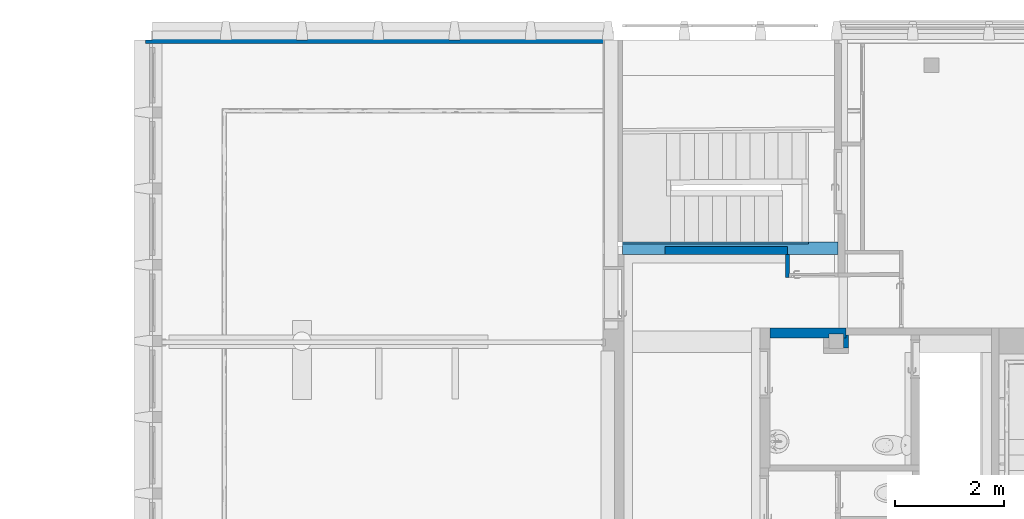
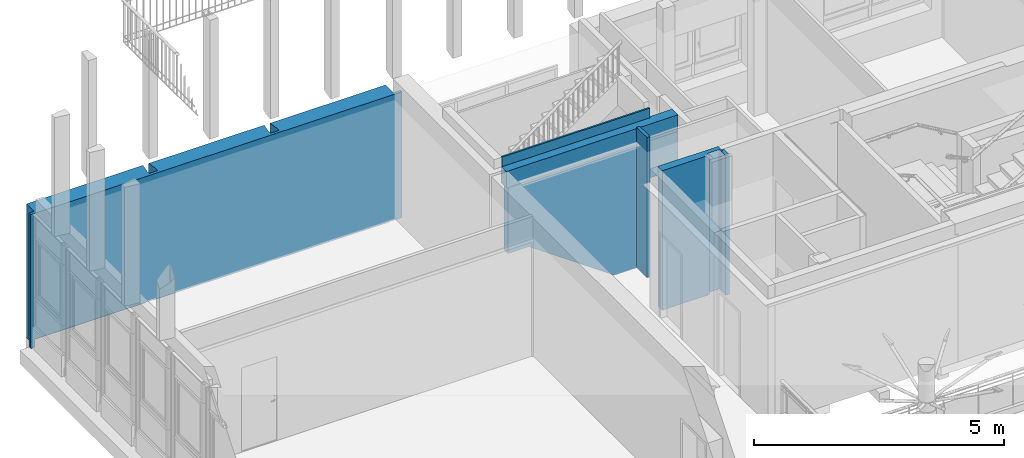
# One storey, part 39 of 65: 6 walls, 3 openings.
"""IFC4 building model written with IfcOpenShell, lengths in metres."""

from ifc_helpers import new_model, entity, si_unit, converted_unit, derived_unit, direction, frame, origin, place, context, subcontext, project, spatial, indexed_curve, outline, extrude, polygons, material, layer, layer_set, type_object, element, save


model = new_model("IFC4")

# Units and contexts
model_context = context("Model", 3, precision=1e-05, world=origin(), true_north=direction((6.12303176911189e-17, 1.0)))
body_context = subcontext(model_context, "Body", "Model", "MODEL_VIEW")
ifc_project = project(units=[si_unit("LENGTHUNIT", "METRE"), si_unit("AREAUNIT", "SQUARE_METRE"), si_unit("VOLUMEUNIT", "CUBIC_METRE"), converted_unit("PLANEANGLEUNIT", "DEGREE", entity("IfcRatioMeasure", 0.0174532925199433), si_unit("PLANEANGLEUNIT", "RADIAN"), dimensions=[0, 0, 0, 0, 0, 0, 0]), si_unit("MASSUNIT", "GRAM", prefix="KILO"), derived_unit("MASSDENSITYUNIT", [(si_unit("MASSUNIT", "GRAM", prefix="KILO"), 1), (si_unit("LENGTHUNIT", "METRE"), -3)]), derived_unit("MOMENTOFINERTIAUNIT", [(si_unit("LENGTHUNIT", "METRE"), 4)]), si_unit("TIMEUNIT", "SECOND"), si_unit("FREQUENCYUNIT", "HERTZ"), si_unit("THERMODYNAMICTEMPERATUREUNIT", "DEGREE_CELSIUS"), derived_unit("THERMALTRANSMITTANCEUNIT", [(si_unit("MASSUNIT", "GRAM", prefix="KILO"), 1), (si_unit("THERMODYNAMICTEMPERATUREUNIT", "KELVIN"), -1), (si_unit("TIMEUNIT", "SECOND"), -3)]), derived_unit("VOLUMETRICFLOWRATEUNIT", [(si_unit("LENGTHUNIT", "METRE"), 3), (si_unit("TIMEUNIT", "SECOND"), -1)]), si_unit("ELECTRICCURRENTUNIT", "AMPERE"), si_unit("ELECTRICVOLTAGEUNIT", "VOLT"), si_unit("POWERUNIT", "WATT"), si_unit("FORCEUNIT", "NEWTON", prefix="KILO"), si_unit("ILLUMINANCEUNIT", "LUX"), si_unit("LUMINOUSFLUXUNIT", "LUMEN"), si_unit("LUMINOUSINTENSITYUNIT", "CANDELA"), derived_unit("USERDEFINED", [(si_unit("MASSUNIT", "GRAM", prefix="KILO"), -1), (si_unit("LENGTHUNIT", "METRE"), -2), (si_unit("TIMEUNIT", "SECOND"), 3), (si_unit("LUMINOUSFLUXUNIT", "LUMEN"), 1)]), derived_unit("LINEARVELOCITYUNIT", [(si_unit("LENGTHUNIT", "METRE"), 1), (si_unit("TIMEUNIT", "SECOND"), -1)]), si_unit("PRESSUREUNIT", "PASCAL"), derived_unit("USERDEFINED", [(si_unit("LENGTHUNIT", "METRE"), -2), (si_unit("MASSUNIT", "GRAM", prefix="KILO"), 1), (si_unit("TIMEUNIT", "SECOND"), -2)]), derived_unit("LINEARFORCEUNIT", [(si_unit("MASSUNIT", "GRAM", prefix="KILO"), 1), (si_unit("LENGTHUNIT", "METRE"), 1), (si_unit("TIMEUNIT", "SECOND"), -2), (si_unit("LENGTHUNIT", "METRE"), -1)]), derived_unit("PLANARFORCEUNIT", [(si_unit("MASSUNIT", "GRAM", prefix="KILO"), 1), (si_unit("LENGTHUNIT", "METRE"), 1), (si_unit("TIMEUNIT", "SECOND"), -2), (si_unit("LENGTHUNIT", "METRE"), -2)])], contexts=[model_context])

# Site, building, storey
site_placement = place(None, origin())
site = spatial("IfcSite", under=ifc_project, at=site_placement, Name="Default", CompositionType="ELEMENT")
building_placement = place(site_placement, origin())
building = spatial("IfcBuilding", under=site, at=building_placement, Name="HOTEL CONSULAIRE BOULOGNE SUR MER", CompositionType="ELEMENT")
storey_placement = place(building_placement, origin())
storey = spatial("IfcBuildingStorey", under=building, at=storey_placement, Name="Niveau 0", CompositionType="ELEMENT", Elevation=1.31981936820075e-13)

# Wall, opening
ifc_material = material(Name="Mur par défaut", Category="Divers")
ifc_layer_1 = layer(ifc_material, 0.07, Name="Mur par défaut", Category="Divers")
ifc_layer_set_1 = layer_set([ifc_layer_1], Name="Mur de base:Générique - Int. 70 mm")
wall_type_1 = type_object("IfcWallType", Name="Mur de base:Générique - Int. 70 mm", PredefinedType="NOTDEFINED", material=ifc_layer_set_1)
wall_1_placement = place(storey_placement, frame((-2.1230062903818, -14.4441924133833, 0.0), z_axis=(0.0, 0.0, 1.0), x_axis=(0.0, 1.0, 0.0)))
wall_1 = element("IfcWall", 1, at=wall_1_placement, inside=storey, type_object=wall_type_1, material=ifc_layer_set_1, Name="Mur de base:Générique - Int. 70 mm", ObjectType="Mur de base:Générique - Int. 70 mm", PredefinedType="NOTDEFINED", context=body_context, shape_type="Tessellation", body=[
    polygons([(0.420488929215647, -0.0350000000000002, 3.42152697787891), (0.0707060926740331, -0.0350000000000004, 3.42152697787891), (0.000702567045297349, -0.0350000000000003, 3.42152697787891), (0.000702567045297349, -0.0350000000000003, 2.075), (0.0707060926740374, -0.0350000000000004, 2.075), (0.0707060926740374, -0.0350000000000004, 1.51470269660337e-13), (0.420488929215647, -0.0350000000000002, 1.51470269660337e-13), (0.420488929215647, -0.0350000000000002, 2.07500000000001), (0.0, 0.0349999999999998, 3.42152697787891), (0.420488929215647, 0.0349999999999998, 3.42152697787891), (0.420488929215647, 0.0349999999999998, 1.51470269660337e-13), (0.0, 0.0349999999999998, 1.51470269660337e-13), (0.000595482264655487, -0.0243306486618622, 0.0), (0.000595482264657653, -0.0243306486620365, 2.075), (0.0705919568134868, -0.0236281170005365, 2.075), (0.0705919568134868, -0.0236281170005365, 1.51469792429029e-13)], [[[2, 3, 4, 5, 6, 7, 8, 1]], [[10, 11, 12, 9]], [[2, 1, 10, 9, 3]], [[9, 12, 13, 14, 4, 3]], [[16, 6, 5, 15]], [[15, 5, 4, 14]], [[7, 6, 16, 13, 12, 11]], [[15, 14, 13, 16]], [[11, 10, 1, 8, 7]]], closed=True),
])
opening_1_placement = place(wall_1_placement, frame((0.000595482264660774, -0.0236281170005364, 0.0)))
element("IfcOpeningElement", 2, at=opening_1_placement, cuts=wall_1, Name="Mur de base:Générique - Int. 70 mm", ObjectType="Opening", PredefinedType="OPENING", context=body_context, shape_type="SweptSolid", body=[
    extrude(outline(indexed_curve([(-0.035, -1.0375), (0.035, -1.0375), (0.035, 1.0375), (-0.035, 1.0375), (-0.035, -1.0375)], self_intersect=False)), frame((0.04403078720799, -0.900305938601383, 1.0375), z_axis=(-0.0100361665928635, 0.999949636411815, 0.0), x_axis=(0.999949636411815, 0.0100361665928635, 0.0)), (0.0, 0.0, 1.0), 0.9),
])

# Walls
ifc_layer_2 = layer(ifc_material, 0.18, Name="Mur par défaut", Category="Divers")
ifc_layer_set_2 = layer_set([ifc_layer_2], Name="Mur de base:Générique - Int.180")
wall_type_2 = type_object("IfcWallType", Name="Mur de base:Générique - Int.180", PredefinedType="NOTDEFINED", material=ifc_layer_set_2)
wall_2_placement = place(storey_placement, frame((-2.44945658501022, -15.4652420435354, -0.0200000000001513)))
element("IfcWall", 3, at=wall_2_placement, inside=storey, type_object=wall_type_2, material=ifc_layer_set_2, Name="Mur de base:Générique - Int.180", ObjectType="Mur de base:Générique - Int.180", PredefinedType="NOTDEFINED", context=body_context, shape_type="Tessellation", body=[
    polygons([(1.35563335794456, -0.0900000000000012, -2.15727435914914e-16), (1.39685039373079, -0.0900000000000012, -2.15727435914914e-16), (1.39685039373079, -0.0900000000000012, 3.40652697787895), (1.35563335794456, -0.0900000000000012, 3.40652697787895), (2.23338674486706e-16, -0.0900000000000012, -2.15727435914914e-16), (0.984248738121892, -0.0900000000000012, -2.15727435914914e-16), (1.08424873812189, -0.0900000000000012, -2.15727435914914e-16), (1.08563335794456, -0.0900000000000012, -2.15727435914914e-16), (1.08563335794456, -0.0900000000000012, 3.40652697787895), (2.23338674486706e-16, -0.0900000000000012, 3.40652697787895), (1.39685039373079, 0.089999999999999, -2.15727435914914e-16), (1.23128658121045e-16, 0.089999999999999, -2.15727435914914e-16), (1.23128658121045e-16, 0.089999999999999, 3.40652697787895), (1.39685039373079, 0.089999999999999, 3.40652697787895), (1.39685039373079, -0.0400000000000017, -2.15727435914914e-16), (1.35563335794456, -0.0156677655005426, -2.15727435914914e-16), (1.08563335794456, -0.0156677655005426, -2.15727435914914e-16), (1.39685039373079, -0.0400000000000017, 3.40652697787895), (1.35563335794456, -0.0156677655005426, 3.40652697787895), (1.08563335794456, -0.0156677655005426, 3.40652697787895)], [[[4, 1, 2, 3]], [[10, 5, 6, 7, 8, 9]], [[16, 19, 20, 17]], [[14, 11, 12, 13]], [[2, 1, 16, 17, 8, 7, 6, 5, 12, 11, 15]], [[18, 3, 2, 15, 11, 14]], [[17, 20, 9, 8]], [[12, 5, 10, 13]], [[1, 4, 19, 16]], [[20, 19, 4, 3, 18, 14, 13, 10, 9]]], closed=True),
])
ifc_layer_3 = layer(ifc_material, 0.1, Name="Mur par défaut", Category="Divers")
ifc_layer_set_3 = layer_set([ifc_layer_3], Name="Mur de base:Générique - Int. 100 mm")
wall_type_3 = type_object("IfcWallType", Name="Mur de base:Générique - Int. 100 mm", PredefinedType="NOTDEFINED", material=ifc_layer_set_3)
wall_3_placement = place(storey_placement, frame((-1.05260619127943, -15.5052420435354, -0.0200000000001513), z_axis=(0.0, 0.0, 1.0), x_axis=(0.0, -1.0, 0.0)))
element("IfcWall", 4, at=wall_3_placement, inside=storey, type_object=wall_type_3, material=ifc_layer_set_3, Name="Mur de base:Générique - Int. 100 mm", ObjectType="Mur de base:Générique - Int. 100 mm", PredefinedType="NOTDEFINED", context=body_context, shape_type="Tessellation", body=[
    polygons([(0.23474076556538, 0.05, -2.15727435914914e-16), (0.0, 0.0500000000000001, -2.15727435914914e-16), (0.0, 0.0500000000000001, 3.40652697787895), (0.23474076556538, 0.05, 3.40652697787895), (0.23474076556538, -0.0412170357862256, -2.15727435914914e-16), (0.0499999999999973, -0.0412170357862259, -2.15727435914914e-16), (0.0499999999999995, -1.50455998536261e-16, -2.15727435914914e-16), (-2.16573425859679e-15, -8.64037255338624e-17, -2.15727435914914e-16), (0.0499999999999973, -0.0412170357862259, 3.40652697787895), (0.0499999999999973, -1.50455998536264e-16, 3.40652697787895), (0.0, -2.21762116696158e-16, 3.40652697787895), (0.23474076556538, -0.0412170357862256, 3.40652697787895)], [[[4, 1, 2, 3]], [[7, 8, 2, 1, 5, 6]], [[10, 7, 6, 9]], [[3, 2, 8, 11]], [[11, 8, 7, 10]], [[5, 12, 9, 6]], [[12, 5, 1, 4]], [[3, 11, 10, 9, 12, 4]]], closed=True),
])

# Wall, openings
ifc_layer_4 = layer(ifc_material, 0.15, Name="Mur par défaut", Category="Divers")
ifc_layer_set_4 = layer_set([ifc_layer_4], Name="Mur de base:Générique - Int. 150 mm")
wall_type_4 = type_object("IfcWallType", Name="Mur de base:Générique - Int. 150 mm", PredefinedType="NOTDEFINED", material=ifc_layer_set_4)
wall_4_placement = place(storey_placement, frame((-5.1297731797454, -13.9487034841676, -0.0200000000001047)))
wall_4 = element("IfcWall", 5, at=wall_4_placement, inside=storey, type_object=wall_type_4, material=ifc_layer_set_4, Name="Mur de base:Générique - Int. 150 mm", ObjectType="Mur de base:Générique - Int. 150 mm", PredefinedType="NOTDEFINED", context=body_context, shape_type="Tessellation", body=[
    polygons([(3.93134967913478, -0.0750000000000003, 3.0040999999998), (2.30846392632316e-16, -0.0750000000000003, 3.0040999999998), (2.30846392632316e-16, -0.0750000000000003, 1.38968714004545), (0.488882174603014, -0.0750000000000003, 1.38968714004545), (2.46508967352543, -0.0749999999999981, 0.0), (2.9717668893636, -0.0750000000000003, 0.0), (3.0417668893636, -0.0750000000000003, 0.0), (3.0417668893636, -0.0750000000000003, 2.09499999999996), (3.93134967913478, -0.0750000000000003, 2.09499999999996), (3.93134967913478, 0.0750000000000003, 3.0040999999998), (3.93134967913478, 0.0750000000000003, 2.09499999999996), (3.0417668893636, 0.0750000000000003, 2.09499999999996), (3.0417668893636, 0.0750000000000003, 0.0), (2.46508967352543, 0.0750000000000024, 0.0), (0.488882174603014, 0.0750000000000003, 1.38968714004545), (8.94273003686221e-16, 0.0750000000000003, 1.38968714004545), (8.94273003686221e-16, 0.0750000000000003, 3.0040999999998), (3.93134967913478, -0.0722106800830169, 3.0040999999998)], [[[9, 1, 2, 3, 4, 5, 6, 7, 8]], [[17, 10, 11, 12, 13, 14, 15, 16]], [[2, 1, 18, 10, 17]], [[6, 5, 14, 13, 7]], [[9, 8, 12, 11]], [[4, 3, 16, 15]], [[8, 7, 13, 12]], [[18, 1, 9, 11, 10]], [[17, 16, 3, 2]], [[5, 4, 15, 14]]], closed=True),
])
opening_2_placement = place(wall_4_placement, origin())
element("IfcOpeningElement", 6, at=opening_2_placement, cuts=wall_4, Name="Mur de base:Générique - Int. 150 mm", ObjectType="Opening", PredefinedType="OPENING", context=body_context, shape_type="SweptSolid", body=[
    extrude(outline(indexed_curve([(-0.694843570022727, -0.833492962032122), (0.694843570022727, -0.833492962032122), (0.694843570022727, 1.82159671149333), (-0.694843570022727, -0.154610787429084), (-0.694843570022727, -0.833492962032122)], self_intersect=False)), frame((0.643492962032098, 0.0749999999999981, 0.694843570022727), z_axis=(0.0, -1.0, 0.0), x_axis=(0.0, 0.0, -1.0)), (0.0, 0.0, 1.0), 0.15),
])
opening_3_placement = place(wall_4_placement, origin())
element("IfcOpeningElement", 7, at=opening_3_placement, cuts=wall_4, Name="Mur de base:Générique - Int. 150 mm", ObjectType="Opening", PredefinedType="OPENING", context=body_context, shape_type="SweptSolid", body=[
    extrude(outline(indexed_curve([(-0.464291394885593, -1.04749999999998), (0.464291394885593, -1.04749999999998), (0.464291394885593, 1.04749999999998), (-0.464291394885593, 1.04749999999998), (-0.464291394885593, -1.04749999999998)], self_intersect=False)), frame((3.47105828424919, 0.0750000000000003, 1.04749999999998), z_axis=(0.0, -1.0, 0.0), x_axis=(1.0, 0.0, 0.0)), (0.0, 0.0, 1.0), 0.15),
])

# Walls
ifc_layer_5 = layer(ifc_material, 0.37, Name="Mur par défaut", Category="Divers")
ifc_layer_set_5 = layer_set([ifc_layer_5], Name="Mur de base:Générique - Ext.370")
wall_type_5 = type_object("IfcWallType", Name="Mur de base:Générique - Ext.370", PredefinedType="NOTDEFINED", material=ifc_layer_set_5)
wall_5_placement = place(storey_placement, frame((-13.9143496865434, -9.96532416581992, -0.220000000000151)))
element("IfcWall", 8, at=wall_5_placement, inside=storey, type_object=wall_type_5, material=ifc_layer_set_5, Name="Mur de base:Générique - Ext.370", ObjectType="Mur de base:Générique - Ext.370", PredefinedType="NOTDEFINED", context=body_context, shape_type="Tessellation", body=[
    polygons([(0.120369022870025, 0.184999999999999, 0.0), (0.120369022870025, 0.184999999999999, 3.27110477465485), (2.8065813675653, 0.184999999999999, 3.27110477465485), (2.8065813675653, 0.184999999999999, -2.03037586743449e-16), (5.75942428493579, 0.0506918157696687, 0.200000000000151), (5.75942428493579, 0.0506918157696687, -2.03037586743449e-16), (8.41036902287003, 0.0506918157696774, -2.03037586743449e-16), (8.41036902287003, 0.0506918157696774, 0.200000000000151), (0.120369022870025, 0.0506918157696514, -2.03037586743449e-16), (2.78643513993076, 0.05069181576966, -2.03037586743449e-16), (2.95942428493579, 0.05069181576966, -2.03037586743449e-16), (2.93927805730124, 0.184999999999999, -2.03037586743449e-16), (5.6065813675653, 0.184999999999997, -2.03037586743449e-16), (5.58643513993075, 0.0506918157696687, -2.03037586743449e-16), (5.58643513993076, 0.0506918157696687, 0.200000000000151), (2.95942428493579, 0.05069181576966, 0.200000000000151), (2.93927805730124, 0.184999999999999, 3.27110477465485), (5.6065813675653, 0.184999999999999, 3.27110477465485), (5.73927805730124, 0.184999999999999, -2.03037586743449e-16), (8.41036902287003, 0.184999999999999, -2.03037586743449e-16), (8.57957650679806, -0.185000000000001, 3.27110477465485), (0.110369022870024, -0.185000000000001, 3.27110477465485), (0.0352498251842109, -0.185000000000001, 3.27110477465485), (1.21157521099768e-15, -0.185000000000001, 3.27110477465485), (1.21157521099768e-15, -0.185000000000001, -2.03037586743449e-16), (0.0352498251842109, -0.185000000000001, -2.03037586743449e-16), (0.0992498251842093, -0.185000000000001, -2.03037586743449e-16), (0.0992498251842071, -0.185000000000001, 0.200000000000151), (0.185000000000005, -0.185000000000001, 0.200000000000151), (8.57957650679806, -0.185000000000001, 0.200000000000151), (5.73927805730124, 0.184999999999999, 3.27110477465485), (8.41036902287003, 0.184999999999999, 3.27110477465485), (8.41036902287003, 0.184999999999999, 2.52400000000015), (8.41036902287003, 0.184999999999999, 2.42400000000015), (9.51438803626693e-16, -0.119308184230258, -2.03037586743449e-16), (0.099249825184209, -0.119308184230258, -2.03037586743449e-16), (8.57957650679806, -0.119308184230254, 0.200000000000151), (8.57957650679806, -0.119308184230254, 3.27110477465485), (8.41036902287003, -0.119308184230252, 3.27110477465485), (5.77292971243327, -0.0393443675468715, 3.27110477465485), (5.77292971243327, -0.120344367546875, 3.27110477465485), (5.57292971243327, -0.120344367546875, 3.27110477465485), (5.57292971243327, -0.039344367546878, 3.27110477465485), (2.97292971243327, -0.0393443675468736, 3.27110477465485), (2.97292971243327, -0.120344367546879, 3.27110477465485), (2.77292971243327, -0.120344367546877, 3.27110477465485), (2.77292971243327, -0.0393443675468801, 3.27110477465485), (0.120369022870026, -0.119308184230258, 3.27110477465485), (9.51438803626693e-16, -0.119308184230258, 3.27110477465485), (0.120369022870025, 0.0506918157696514, 0.200000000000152), (0.120369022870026, -0.119308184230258, 0.200000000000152), (0.099249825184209, -0.119308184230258, 0.200000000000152), (2.77292971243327, -0.0393443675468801, 0.200000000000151), (2.78643513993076, 0.0506918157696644, 0.200000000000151), (2.77292971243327, -0.120344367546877, 0.200000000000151), (2.97292971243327, -0.120344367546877, 0.200000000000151), (2.97292971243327, -0.0393443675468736, 0.200000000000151), (5.57292971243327, -0.039344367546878, 0.200000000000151), (5.57292971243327, -0.120344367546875, 0.200000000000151), (5.77292971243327, -0.120344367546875, 0.200000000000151), (5.77292971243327, -0.0393443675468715, 0.200000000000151), (8.41036902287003, -0.119308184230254, 0.200000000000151)], [[[3, 4, 1, 2]], [[18, 13, 12, 17]], [[32, 33, 34, 20, 19, 31]], [[52, 36, 35, 49, 48, 51]], [[55, 46, 45, 56]], [[59, 42, 41, 60]], [[37, 62, 39, 38]], [[5, 6, 7, 8]], [[16, 11, 14, 15]], [[28, 29, 30, 21, 22, 23, 24, 25, 26, 27]], [[50, 9, 10, 54]], [[10, 9, 1, 4]], [[14, 11, 12, 13]], [[7, 6, 19, 20]], [[26, 25, 35, 36, 27]], [[62, 37, 30, 29, 28, 52, 51, 50, 54, 53, 55, 56, 57, 16, 15, 58, 59, 60, 61, 5, 8]], [[21, 30, 37, 38]], [[55, 53, 47, 46]], [[59, 58, 43, 42]], [[28, 27, 36, 52]], [[39, 62, 8, 7, 20, 34, 33, 32]], [[21, 38, 39, 32, 31, 40, 41, 42, 43, 18, 17, 44, 45, 46, 47, 3, 2, 48, 49, 24, 23, 22]], [[25, 24, 49, 35]], [[50, 51, 48, 2, 1, 9]], [[56, 45, 44, 57]], [[60, 41, 40, 61]], [[54, 10, 4, 3, 47, 53]], [[15, 14, 13, 18, 43, 58]], [[16, 57, 44, 17, 12, 11]], [[5, 61, 40, 31, 19, 6]]], closed=True),
])
ifc_layer_6 = layer(ifc_material, 0.23, Name="Mur par défaut", Category="Divers")
ifc_layer_set_6 = layer_set([ifc_layer_6], Name="Mur de base:Générique - Int.230")
wall_type_6 = type_object("IfcWallType", Name="Mur de base:Générique - Int.230", PredefinedType="NOTDEFINED", material=ifc_layer_set_6)
wall_6_placement = place(storey_placement, frame((-5.1597731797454, -13.9059141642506, 2.9840999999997)))
element("IfcWall", 9, at=wall_6_placement, inside=storey, type_object=wall_type_6, material=ifc_layer_set_6, Name="Mur de base:Générique - Int.230", ObjectType="Mur de base:Générique - Int.230", PredefinedType="NOTDEFINED", context=body_context, shape_type="Tessellation", body=[
    polygons([(2.23046700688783e-16, -0.115, 0.0), (3.96134967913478, -0.115, 0.0), (3.96134967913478, -0.115, 0.402426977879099), (2.23046700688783e-16, -0.115, 0.402426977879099), (3.96134967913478, 0.115, 0.0), (-4.20095427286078e-16, 0.115, 0.0), (6.62771702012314e-16, 0.115, 0.63742697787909), (3.41697356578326, 0.115000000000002, 0.63742697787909), (3.41697356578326, 0.115000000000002, 0.402426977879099), (3.96134967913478, 0.115, 0.402426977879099), (3.96134967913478, 0.0322106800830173, 0.0), (7.74622506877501e-16, 0.0750000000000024, 0.63742697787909), (3.41697356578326, 0.0750000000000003, 0.63742697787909), (2.11261335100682e-17, -0.0427893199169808, 0.402426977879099), (7.74622506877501e-16, 0.0750000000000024, 0.402426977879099), (3.41697356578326, 0.0750000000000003, 0.402426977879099)], [[[4, 1, 2, 3]], [[12, 15, 16, 13]], [[9, 10, 5, 6, 7, 8]], [[2, 1, 6, 5, 11]], [[12, 13, 8, 7]], [[10, 9, 16, 15, 14, 4, 3]], [[4, 14, 15, 12, 7, 6, 1]], [[11, 5, 10, 3, 2]], [[8, 13, 16, 9]]], closed=True),
])

save(model, "model.ifc")
